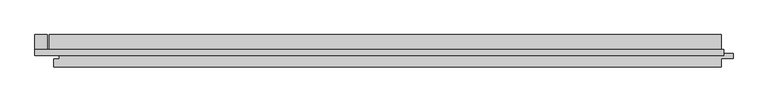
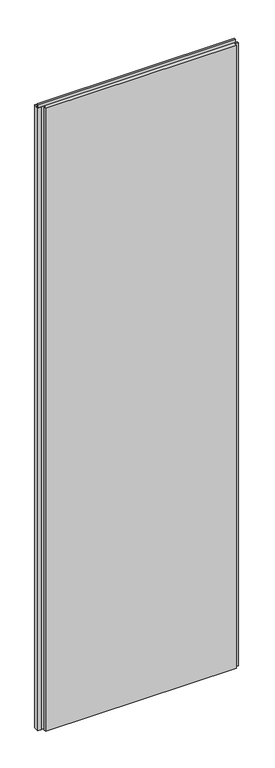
"""IFC4 building model written with IfcOpenShell, lengths in millimetres: plate geometry, Trimo_Qbiss Screen_Normal Panel-VERTICAL : HR - FB."""

from ifc_helpers import new_model, si_unit, frame, origin, place, context, project, spatial, polyline, outline, extrude, source, transform, mapped, element, save


def plate_af513f9f(model_context):
    return source(origin(), model_context, "Body", "SweptSolid", [
        extrude(outline(polyline([(-571.0, 97.0), (-571.0, 126.0), (-552.0, 126.0), (-552.0, 97.0), (-571.0, 97.0)])), frame((0.0, 0.0, 12.5), z_axis=(0.0, 0.0, 1.0), x_axis=(1.0, 0.0, 0.0)), (0.0, 0.0, 1.0), 3575.0),
        extrude(outline(polyline([(-571.0, 93.9), (-571.0, 102.6), (500.0, 102.6), (500.0, 93.9), (-571.0, 93.9)])), frame((0.0, 0.0, 3590.5), z_axis=(0.0, 0.0, 1.0), x_axis=(1.0, 0.0, 0.0)), (0.0, 0.0, 1.0), 19.0),
        extrude(outline(polyline([(496.0, 97.0), (514.5, 97.0), (514.5, 89.0), (496.0, 89.0), (496.0, 76.0), (-542.0, 76.0), (-542.0, 88.0), (-533.5, 88.0), (-533.5, 98.0), (-549.0, 98.0), (-549.0, 126.0), (496.0, 126.0), (496.0, 97.0)])), frame((0.0, 0.0, 12.5), z_axis=(0.0, 0.0, 1.0), x_axis=(1.0, 0.0, 0.0)), (0.0, 0.0, 1.0), 3575.0),
    ])


if __name__ == "__main__":
    model = new_model("IFC4")
    model_context = context("Model", 3, world=origin())
    ifc_project = project(units=[si_unit("LENGTHUNIT", "METRE", prefix="MILLI")], contexts=[model_context])
    site = spatial("IfcSite", under=ifc_project)
    building = spatial("IfcBuilding", under=site)
    placement = place(None, origin())
    plate_shape = plate_af513f9f(model_context)
    element("IfcPlate", 1, ObjectType="Trimo_Qbiss Screen_Normal Panel-VERTICAL : HR - FB", at=placement, inside=building, context=model_context, shape_type="MappedRepresentation", body=[
        mapped(plate_shape, transform((0.0, 0.0, 0.0), x_axis=(1.0, 0.0, 0.0), y_axis=(0.0, 1.0, 0.0), z_axis=(0.0, 0.0, 1.0))),
    ])
    save(model, "model.ifc")
